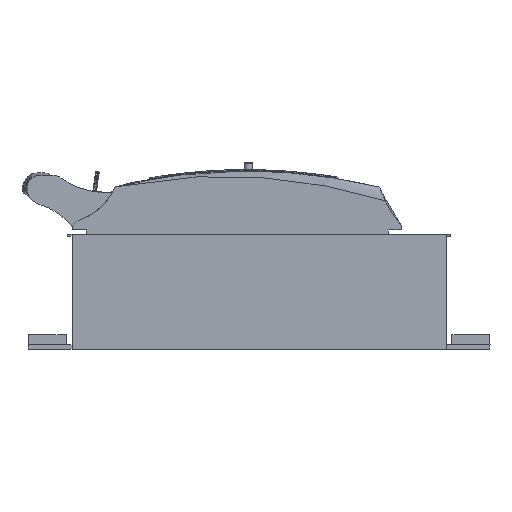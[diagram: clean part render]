
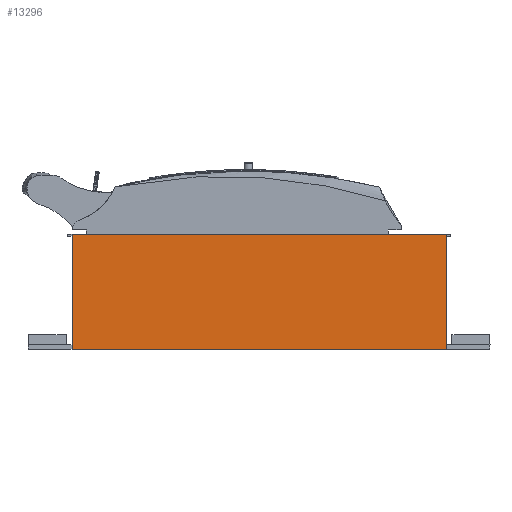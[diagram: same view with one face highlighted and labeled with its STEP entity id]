
A CAD part, front view. The second image highlights one B-rep face of the part: STEP entity #13296.
In plain terms, the highlighted planar face has unit normal (0, -1, 0).
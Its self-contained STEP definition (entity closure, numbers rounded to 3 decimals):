
#13296=ADVANCED_FACE('',(#15938),#14862,.F.);
#14862=PLANE('',#39388);
#15938=FACE_OUTER_BOUND('',#17449,.T.);
#17449=EDGE_LOOP('',(#19999,#20000,#20001,#20002));
#19999=ORIENTED_EDGE('',*,*,#31273,.T.);
#20000=ORIENTED_EDGE('',*,*,#30533,.F.);
#20001=ORIENTED_EDGE('',*,*,#31133,.F.);
#20002=ORIENTED_EDGE('',*,*,#30473,.T.);
#27673=VERTEX_POINT('',#49573);
#27674=VERTEX_POINT('',#49575);
#27719=VERTEX_POINT('',#49692);
#27720=VERTEX_POINT('',#49694);
#30473=EDGE_CURVE('',#27674,#27673,#34759,.T.);
#30533=EDGE_CURVE('',#27719,#27720,#34817,.T.);
#31133=EDGE_CURVE('',#27674,#27719,#34917,.T.);
#31273=EDGE_CURVE('',#27673,#27720,#35039,.T.);
#34759=LINE('',#49574,#36812);
#34817=LINE('',#49693,#36870);
#34917=LINE('',#51722,#36970);
#35039=LINE('',#51990,#37092);
#36812=VECTOR('',#41788,1.);
#36870=VECTOR('',#41876,1.);
#36970=VECTOR('',#42772,1.);
#37092=VECTOR('',#42990,1.);
#39388=AXIS2_PLACEMENT_3D('',#51991,#42991,#42992);
#41788=DIRECTION('',(0.,0.,-1.));
#41876=DIRECTION('',(0.,0.,-1.));
#42772=DIRECTION('',(1.,0.,0.));
#42990=DIRECTION('',(1.,0.,0.));
#42991=DIRECTION('',(0.,1.,0.));
#42992=DIRECTION('',(0.,0.,1.));
#49573=CARTESIAN_POINT('',(-109.172,-104.,116.103));
#49574=CARTESIAN_POINT('',(-109.172,-104.,196.103));
#49575=CARTESIAN_POINT('',(-109.172,-104.,196.103));
#49692=CARTESIAN_POINT('',(150.828,-104.,196.103));
#49693=CARTESIAN_POINT('',(150.828,-104.,196.103));
#49694=CARTESIAN_POINT('',(150.828,-104.,116.103));
#51722=CARTESIAN_POINT('',(150.828,-104.,196.103));
#51990=CARTESIAN_POINT('',(150.828,-104.,116.103));
#51991=CARTESIAN_POINT('',(150.828,-104.,196.103));
